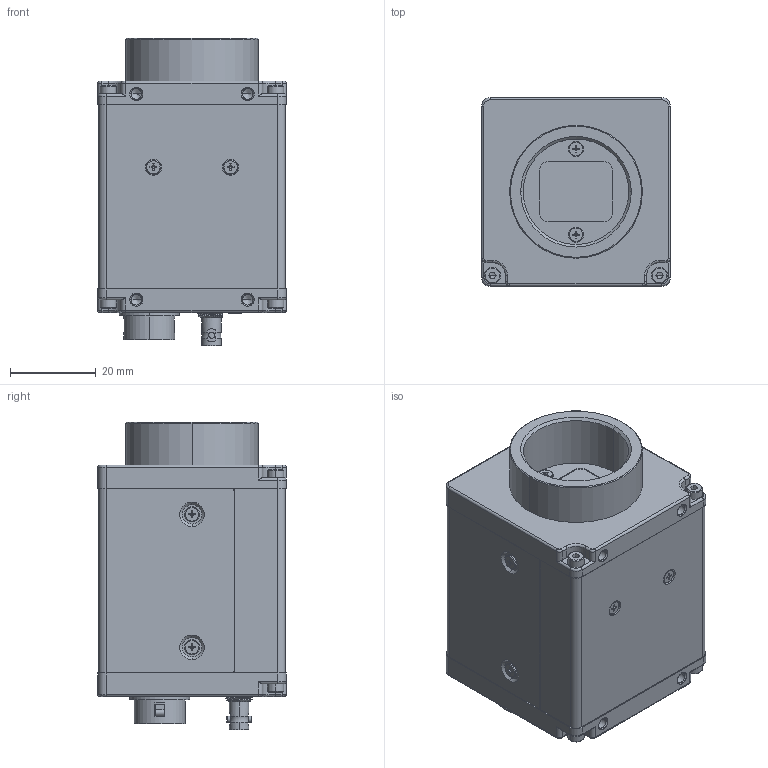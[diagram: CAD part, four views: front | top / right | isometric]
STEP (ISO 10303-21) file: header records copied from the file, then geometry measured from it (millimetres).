
FILE_DESCRIPTION((''),'2;1');
FILE_NAME('SW-2005TL-CXP-MOCK','2024-03-25T18:07:58',('aso'),(''),'CREO PARAMETRIC BY PTC INC, 2019352','CREO PARAMETRIC BY PTC INC, 2019352','');
FILE_SCHEMA(('AUTOMOTIVE_DESIGN { 1 0 10303 214 1 1 1 1 }'));
Length unit declared in the file: millimetre
Products named in the file (1): SW-2005TL-CXP-MOCK
Bounding box: 44 x 44 x 71.75 mm (x, y, z)
Volume: 103077.3 mm3; surface area: 18090.4 mm2
Topology: 2 solids, 14 shells, 891 faces, 2370 edges, 1516 vertices
Faces by surface type: plane 371, cylinder 308, cone 106, torus 50, bspline 32, sphere 24
Entity records: 37942 total; most frequent: CARTESIAN_POINT 8741, ORIENTED_EDGE 4604, DIRECTION 4461, EDGE_CURVE 2320, AXIS2_PLACEMENT_3D 1694, PRESENTATION_STYLE_ASSIGNMENT 1519, VERTEX_POINT 1516, STYLED_ITEM 1435
